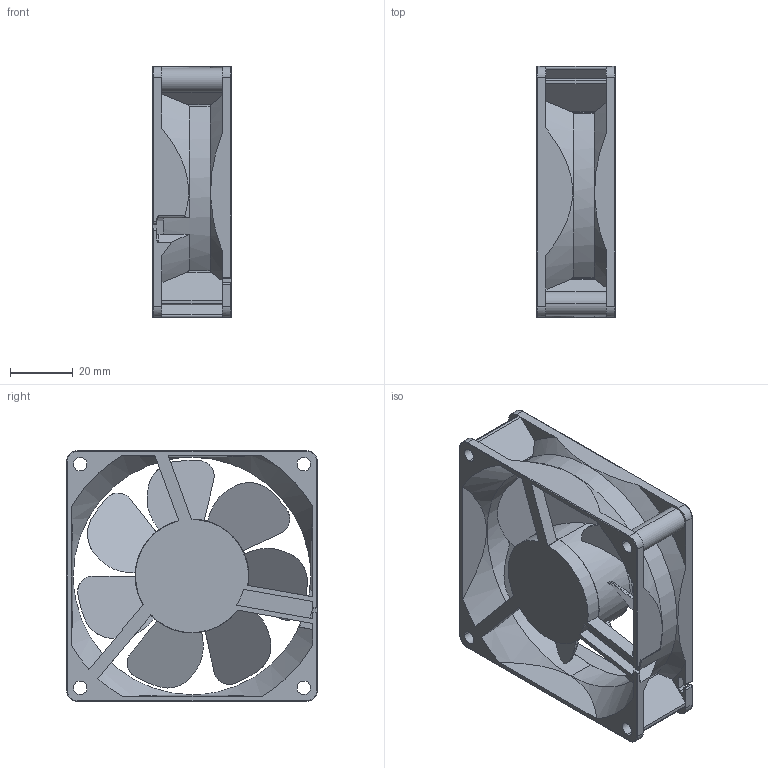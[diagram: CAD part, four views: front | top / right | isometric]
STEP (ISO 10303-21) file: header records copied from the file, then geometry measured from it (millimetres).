
FILE_DESCRIPTION (( 'STEP AP203' ), '1' );
FILE_NAME ('8025R_RIBBED.STEP', '2017-08-08T08:00:31', ( '' ), ( '' ), 'SwSTEP 2.0', 'SolidWorks 2017', '' );
FILE_SCHEMA (( 'CONFIG_CONTROL_DESIGN' ));
Length unit declared in the file: millimetre
Products named in the file (1): 8025R_RIBBED
Bounding box: 25.2 x 80.2 x 80.2 mm (x, y, z)
Volume: 48635.6 mm3; surface area: 33242.1 mm2
Topology: 1 solids, 1 shells, 387 faces, 1131 edges, 745 vertices
Faces by surface type: plane 217, cylinder 117, bspline 30, cone 21, torus 2
Entity records: 18338 total; most frequent: CARTESIAN_POINT 9273, ORIENTED_EDGE 2262, DIRECTION 1333, EDGE_CURVE 1131, VERTEX_POINT 745, B_SPLINE_CURVE_WITH_KNOTS 645, AXIS2_PLACEMENT_3D 511, EDGE_LOOP 404
